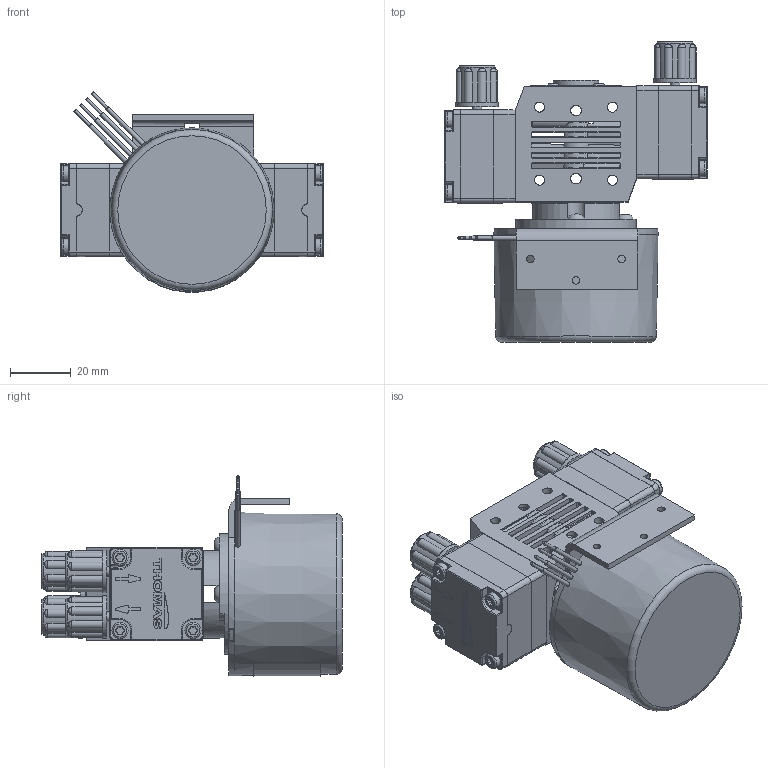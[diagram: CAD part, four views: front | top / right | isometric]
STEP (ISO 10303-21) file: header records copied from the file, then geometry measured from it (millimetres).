
FILE_DESCRIPTION (( 'STEP AP203' ), '1' );
FILE_NAME ('64200201-18.STEP', '2019-07-04T09:43:58', ( 'admin' ), ( 'Gardner Denver' ), 'SwSTEP 2.0', 'SolidWorks 2018', '' );
FILE_SCHEMA (( 'CONFIG_CONTROL_DESIGN' ));
Products named in the file (1): 64200201-18
Bounding box: 86.4 x 98.75 x 65.8 mm (x, y, z)
Surface area: 38853.2 mm2 (no closed solid volume)
Topology: 0 solids, 48 shells, 1181 faces, 5377 edges, 3993 vertices
Faces by surface type: plane 525, cylinder 440, torus 108, cone 53, bspline 45, sphere 10
Full cylindrical faces by diameter (mm): 1 x4, 1.5 x4, 1.95 x4, 2.46 x3, 3 x1, 3.2 x4, 3.3 x8, 3.5 x8, 5 x4, 5.3 x8, 6 x1, 6.5 x4, 7.3 x4, 11 x1, 12 x4, 12.2 x1, 14 x4, 15 x1, 39.7 x1
Entity records: 56286 total; most frequent: CARTESIAN_POINT 14907, DIRECTION 8380, ORIENTED_EDGE 7639, EDGE_CURVE 5148, VERTEX_POINT 3941, VECTOR 3412, LINE 3412, AXIS2_PLACEMENT_3D 2484
